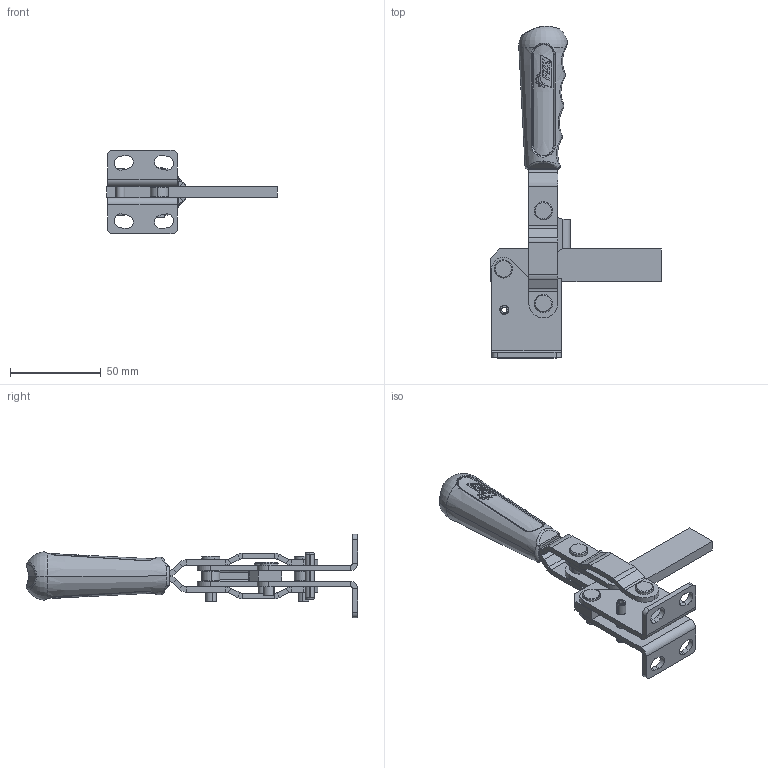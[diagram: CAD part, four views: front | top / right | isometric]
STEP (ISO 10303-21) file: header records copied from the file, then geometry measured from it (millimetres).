
FILE_DESCRIPTION (( 'STEP AP214' ), '1' );
FILE_NAME ('202_BL.STEP', '2024-09-09T16:27:16', ( '' ), ( '' ), 'SwSTEP 2.0', 'SolidWorks 2023', '' );
FILE_SCHEMA (( 'AUTOMOTIVE_DESIGN' ));
Length unit declared in the file: millimetre
Products named in the file (12): FZK_202_BL_02_00; spring pin slotted_hd_iso_Spring Pin ISO 8752 - 5 x 26 - St; FZK_202_B_02_00; FZK_202_B_05_00_202 B-06; FZK_202_B_06_00_202 B-07; 202_BL; FZK_202_B_02A_00; FZK_202_B_04_00; TTMK_01_00; FZK_202_B_07_00; FZK_202_B_03_00; FZK_202_BL_01_00
Assembly tree (15 placements, depth 3):
  202_BL
    FZK_202_B_02_00
      FZK_202_B_02A_00  x2
    TTMK_01_00
    FZK_202_B_03_00
    FZK_202_B_04_00
    FZK_202_BL_01_00
    FZK_202_BL_02_00
    FZK_202_B_05_00_202 B-06  x2
    FZK_202_B_06_00_202 B-07  x2
    FZK_202_B_07_00  x2
    spring pin slotted_hd_iso_Spring Pin ISO 8752 - 5 x 26 - St
Bounding box: 94 x 182.86 x 46 mm (x, y, z)
Volume: 69117.3 mm3; surface area: 43064.3 mm2
Topology: 14 solids, 14 shells, 634 faces, 1538 edges, 939 vertices
Faces by surface type: bspline 211, plane 176, cylinder 170, cone 51, sphere 20, torus 6
Entity records: 28577 total; most frequent: CARTESIAN_POINT 17304, ORIENTED_EDGE 2594, DIRECTION 1715, EDGE_CURVE 1297, VERTEX_POINT 809, AXIS2_PLACEMENT_3D 678, EDGE_LOOP 580, B_SPLINE_CURVE_WITH_KNOTS 578
